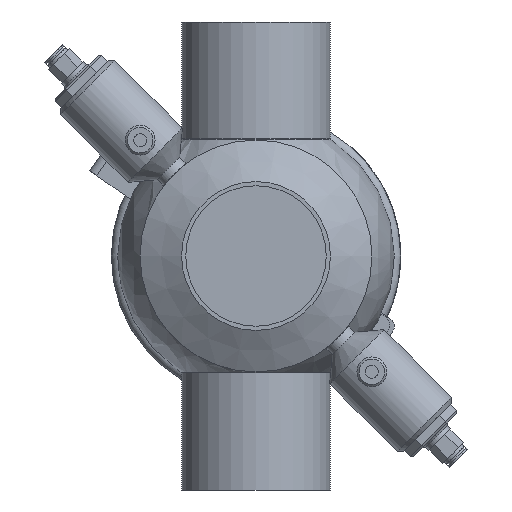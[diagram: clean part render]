
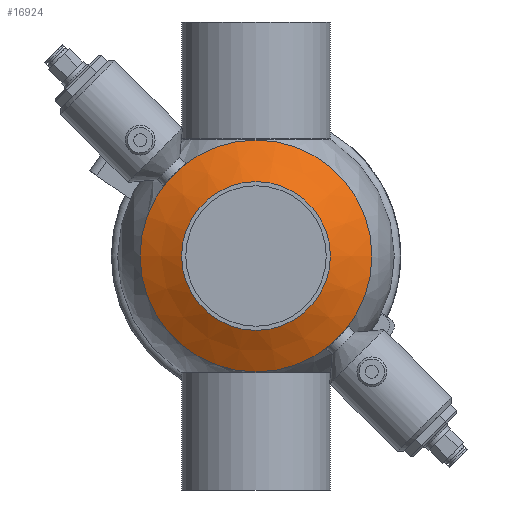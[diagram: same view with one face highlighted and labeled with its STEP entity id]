
A CAD part, front view. The second image highlights one B-rep face of the part: STEP entity #16924.
In plain terms, the highlighted conical face has half-angle 60 degrees and reference radius 54.5 mm.
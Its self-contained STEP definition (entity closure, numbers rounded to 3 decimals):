
#138 = CIRCLE ( 'NONE', #11288, 54.5 ) ;
#344 = DIRECTION ( 'NONE',  ( 0., 1., 0. ) ) ;
#1002 = CIRCLE ( 'NONE', #19042, 35. ) ;
#1519 = DIRECTION ( 'NONE',  ( 0., 1., 0. ) ) ;
#1775 = ORIENTED_EDGE ( 'NONE', *, *, #9516, .T. ) ;
#3305 = FACE_BOUND ( 'NONE', #7385, .T. ) ;
#4047 = CARTESIAN_POINT ( 'NONE',  ( 0., -58., 0. ) ) ;
#4209 = EDGE_LOOP ( 'NONE', ( #19270 ) ) ;
#5494 = DIRECTION ( 'NONE',  ( 0., 1., 0. ) ) ;
#5761 = AXIS2_PLACEMENT_3D ( 'NONE', #12576, #1519, #16183 ) ;
#6817 = EDGE_CURVE ( 'NONE', #13137, #13137, #138, .T. ) ;
#7385 = EDGE_LOOP ( 'NONE', ( #1775 ) ) ;
#9171 = CARTESIAN_POINT ( 'NONE',  ( 0., -58., 54.5 ) ) ;
#9516 = EDGE_CURVE ( 'NONE', #20357, #20357, #1002, .T. ) ;
#9729 = DIRECTION ( 'NONE',  ( 0., 0., 1. ) ) ;
#11288 = AXIS2_PLACEMENT_3D ( 'NONE', #4047, #5494, #11381 ) ;
#11381 = DIRECTION ( 'NONE',  ( 0., 0., 1. ) ) ;
#12576 = CARTESIAN_POINT ( 'NONE',  ( 0., -58., 0. ) ) ;
#13137 = VERTEX_POINT ( 'NONE', #9171 ) ;
#16183 = DIRECTION ( 'NONE',  ( 0., 0., 1. ) ) ;
#16856 = CARTESIAN_POINT ( 'NONE',  ( 0., -69.258, 35. ) ) ;
#16877 = CONICAL_SURFACE ( 'NONE', #5761, 54.5, 1.047 ) ;
#16924 = ADVANCED_FACE ( 'NONE', ( #3305, #17973 ), #16877, .T. ) ;
#17973 = FACE_OUTER_BOUND ( 'NONE', #4209, .T. ) ;
#18969 = CARTESIAN_POINT ( 'NONE',  ( 0., -69.258, 0. ) ) ;
#19042 = AXIS2_PLACEMENT_3D ( 'NONE', #18969, #344, #9729 ) ;
#19270 = ORIENTED_EDGE ( 'NONE', *, *, #6817, .F. ) ;
#20357 = VERTEX_POINT ( 'NONE', #16856 ) ;
